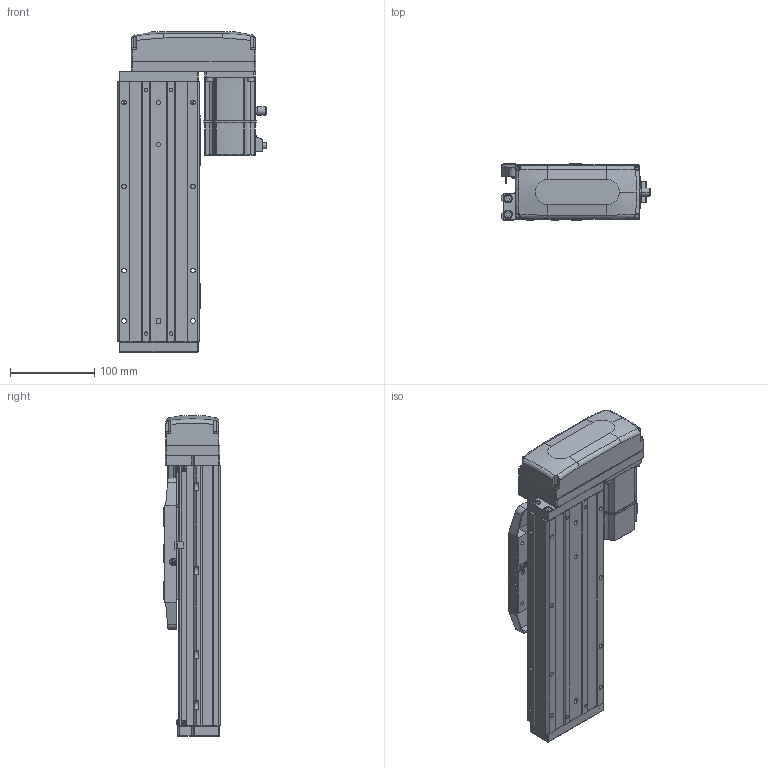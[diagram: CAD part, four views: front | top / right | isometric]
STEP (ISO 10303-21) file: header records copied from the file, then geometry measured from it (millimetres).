
FILE_DESCRIPTION (( 'STEP AP203' ), '1' );
FILE_NAME ('CTHA100-100-BL-M20-C4L.step', '2022-07-06T08:55:43', ( '微软用户' ), ( '微软中国' ), 'SwSTEP 2.0', 'SolidWorks 2020', '' );
FILE_SCHEMA (( 'CONFIG_CONTROL_DESIGN' ));
Length unit declared in the file: millimetre
Products named in the file (19): CTHA100-031; CTHA60-021; KTHA100-001_310; GBT77-2000 M3×3; CTHA86-030; KTHA100-004; GBT 70.1-M3℅6; GBT 70.3-M3℅6; KTHA100-005; GBT70.1 M5℅16; CTHA86-015-1_CTHA86-015-2; GB¨uT 70.2-M3¡Á5_M3¡Á6; CTHA60-016; CTHA86-033; EE_SX911P_R; _X2_4E0983F1_X0_200W_1; CTHA100-100-BL-M20-C4L; CTHA60-017; CTHA100-002
Assembly tree (64 placements, depth 2):
  CTHA100-100-BL-M20-C4L
    KTHA100-001_310
    KTHA100-004
    KTHA100-005
    GB¨uT 70.2-M3¡Á5_M3¡Á6  x10
    EE_SX911P_R  x3
    CTHA60-017  x3
    CTHA60-021  x2
    GBT77-2000 M3×3  x6
    GBT 70.1-M3℅6  x10
    GBT70.1 M5℅16  x14
    CTHA60-016  x2
    _X2_4E0983F1_X0_200W_1
    CTHA100-002
    CTHA100-031
    CTHA86-030  x2
    GBT 70.3-M3℅6  x4
    CTHA86-015-1_CTHA86-015-2
    CTHA86-033
Bounding box: 177.7 x 68 x 381 mm (x, y, z)
Volume: 2081429.5 mm3; surface area: 382107 mm2
Topology: 66 solids, 66 shells, 2589 faces, 6191 edges, 3832 vertices
Faces by surface type: plane 1344, cylinder 677, cone 345, torus 124, bspline 75, sphere 24
Entity records: 43408 total; most frequent: CARTESIAN_POINT 8587, DIRECTION 6654, ORIENTED_EDGE 6498, EDGE_CURVE 3249, AXIS2_PLACEMENT_3D 2271, LINE 2112, VECTOR 2112, VERTEX_POINT 2052
